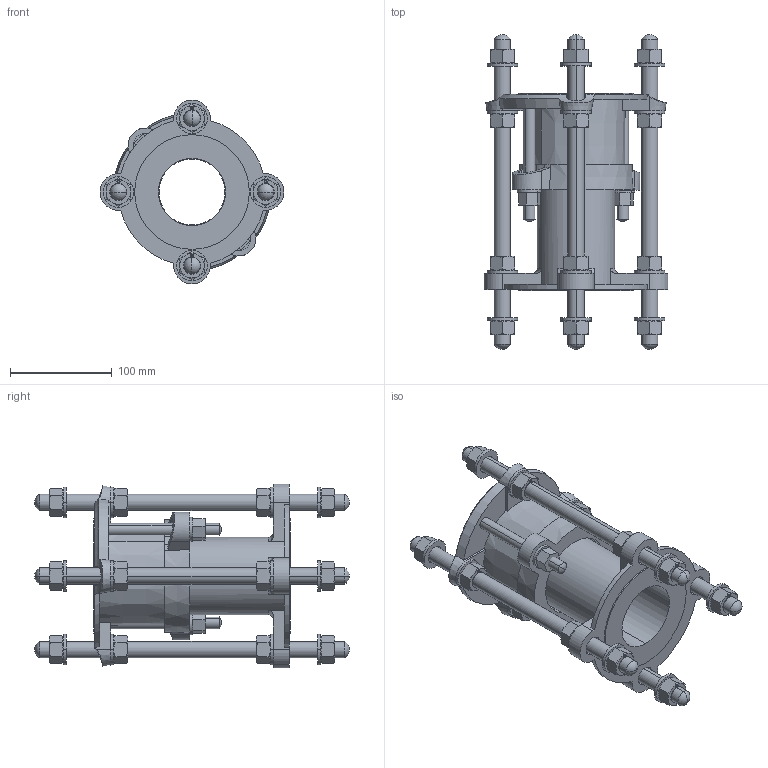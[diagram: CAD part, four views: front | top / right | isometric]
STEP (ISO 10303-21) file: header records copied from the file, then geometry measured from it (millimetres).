
FILE_DESCRIPTION((''),'2;1');
FILE_NAME('BIM_10435_395_ASM','2021-01-11T',('MReader'),(''),'CREO PARAMETRIC BY PTC INC, 2016130','CREO PARAMETRIC BY PTC INC, 2016130','');
FILE_SCHEMA(('CONFIG_CONTROL_DESIGN'));
Length unit declared in the file: millimetre
Products named in the file (9): BIM_12484; BIM_12518_03; BIM_12501_02_ASM; 13518_BIM; 300_TIE_BOLT; 10467_4; 12442_6; M16_NUT_WASHER_ASM; BIM_10435_395_ASM
Assembly tree (26 placements, depth 3):
  BIM_10435_395_ASM
    BIM_12501_02_ASM
      BIM_12484
      BIM_12518_03
    13518_BIM
    300_TIE_BOLT  x4
    M16_NUT_WASHER_ASM  x16
      10467_4
      12442_6
Bounding box: 181 x 310 x 181 mm (x, y, z)
Volume: 1034956.5 mm3; surface area: 362998.8 mm2
Topology: 39 solids, 55 shells, 1701 faces, 4524 edges, 2904 vertices
Faces by surface type: plane 1205, cone 280, cylinder 186, sphere 20, torus 6, bspline 4
Entity records: 8962 total; most frequent: CARTESIAN_POINT 2177, DIRECTION 1397, ORIENTED_EDGE 1354, EDGE_CURVE 679, AXIS2_PLACEMENT_3D 515, VERTEX_POINT 441, VECTOR 367, LINE 367
